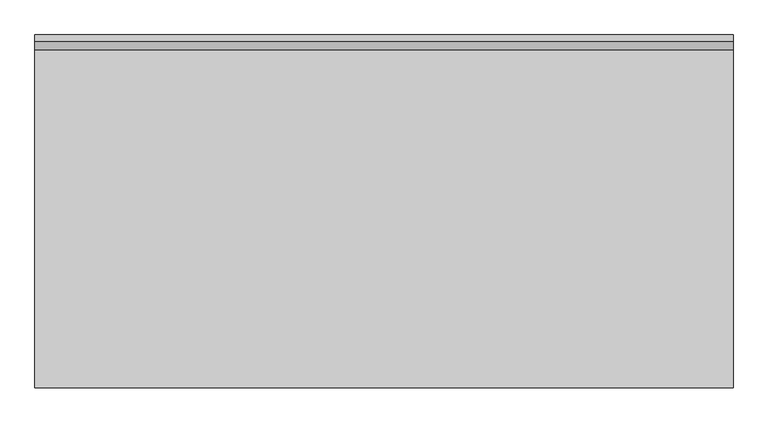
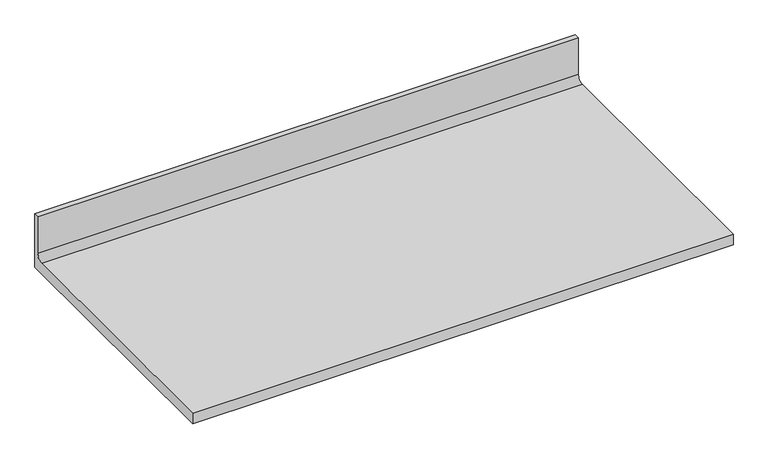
"""IFC4 building model written with IfcOpenShell, lengths in millimetres: furniture geometry, HermanMiller_Mora_CH600_CorianWorksurface : 4H Integrated Backsplash 24D 48W."""

from ifc_helpers import new_model, si_unit, point, frame, frame_2d, origin, place, context, project, spatial, polyline, circle_curve, trimmed, segment, composite_curve, outline, extrude, source, transform, mapped, element, save


def furniture_5ebc722f(model_context):
    return source(origin(), model_context, "Body", "SweptSolid", [
        extrude(outline(composite_curve([segment(polyline([(0.0, 889.0), (-615.95, 889.0), (-615.95, 914.4), (-25.8191, 914.4)]), True, "CONTINUOUS"), segment(trimmed(circle_curve(frame_2d((-25.8191, 929.1066)), 14.7066), [point((-25.8191, 914.4))], [point((-11.1125, 929.1066))], True, "CARTESIAN"), True, "CONTINUOUS"), segment(polyline([(-11.1125, 929.1066), (-11.1125, 1016.0), (0.0, 1016.0), (0.0, 889.0)]), True, "CONTINUOUS")], self_intersect=False)), frame((0.0, 0.0, 0.0), z_axis=(1.0, 0.0, 0.0), x_axis=(0.0, 1.0, 0.0)), (0.0, 0.0, 1.0), 1219.2),
    ])


if __name__ == "__main__":
    model = new_model("IFC4")
    model_context = context("Model", 3, world=origin())
    ifc_project = project(units=[si_unit("LENGTHUNIT", "METRE", prefix="MILLI")], contexts=[model_context])
    site = spatial("IfcSite", under=ifc_project)
    building = spatial("IfcBuilding", under=site)
    placement = place(None, origin())
    furniture_shape = furniture_5ebc722f(model_context)
    element("IfcFurniture", 1, ObjectType="HermanMiller_Mora_CH600_CorianWorksurface : 4H Integrated Backsplash 24D 48W", at=placement, inside=building, context=model_context, shape_type="MappedRepresentation", body=[
        mapped(furniture_shape, transform((0.0, 0.0, 0.0), x_axis=(1.0, 0.0, 0.0), y_axis=(0.0, 1.0, 0.0), z_axis=(0.0, 0.0, 1.0))),
    ])
    save(model, "model.ifc")
